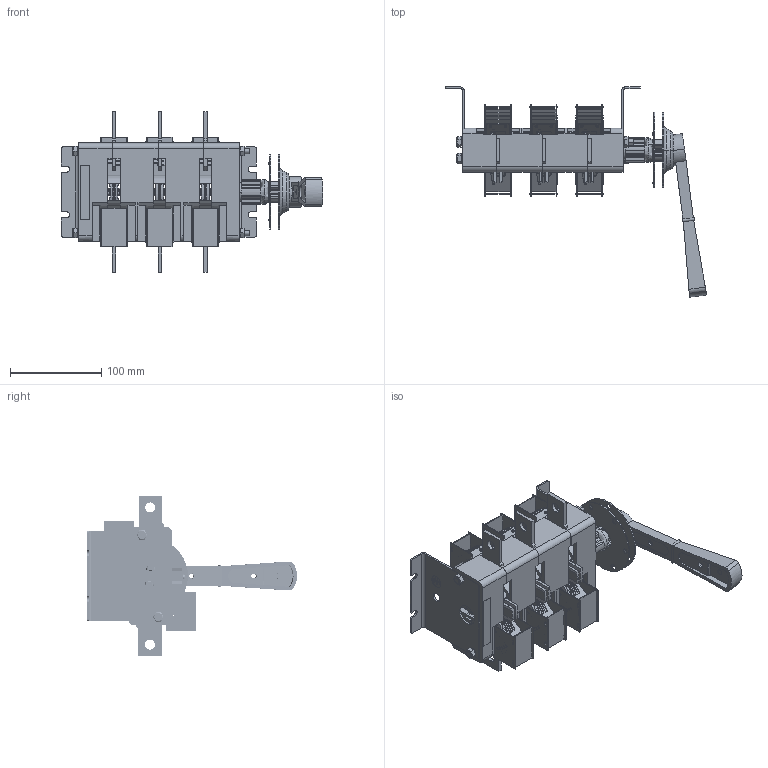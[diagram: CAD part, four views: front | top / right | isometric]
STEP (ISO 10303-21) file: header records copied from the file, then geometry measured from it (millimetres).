
FILE_DESCRIPTION (( 'STEP AP214' ), '1' );
FILE_NAME ('ﾂﾐ32-37ﾔ ﾃﾆﾈﾊ.642523.008-01 (ﾂ31250-400ﾀ ﾋ).STEP', '2023-04-19T10:39:23', ( '' ), ( '' ), 'SwSTEP 2.0', 'SolidWorks 2018', '' );
FILE_SCHEMA (( 'AUTOMOTIVE_DESIGN' ));
Length unit declared in the file: millimetre
Products named in the file (38): Áîêîâèíà ïðàâàÿ ÃÆÈÊ.735224.026; 澡犟囹铕 闷仁.745484.003; ﾘ琺矜 ﾃﾆﾈﾊ.758491.056; ﾂﾐ32-37ﾔ ﾃﾆﾈﾊ.642523.008-01 (ﾂ31250-400ﾀ ﾋ); ﾘ琺矜 D15; 澡犟囹铕_闷仁.745484.006; 殃钺郷闷仁.745326.025; ﾂ琿 ﾃﾆﾈﾊ.715274.003; Êîðïóñ ëåâûé ÃÆÈÊ.735384.047; Òàáëè÷êà äëÿ ñáîðêè ÷èñòàÿ áîëüøàÿ; 锐牮钽囫栩咫黖闷仁.741271.007; 噪囗弼 闷仁.712378.001; 想囫蜩磬_闷仁.745355.008; Ïëàñòèíà óïðàâëåíèÿ; Ãàéêà 2Ì6-6Í.5.016; 务黖闷仁.715411.019; Èñêðîãàñèòåëü_ÃÆÈÊ.741271.007_-01(®â¢¥àáâ¨ï); Êîíòàêò ïîäâèæíûé_ÃÆÈÊ.745355.013; Êîðïóñ ñðåäíèé ÃÆÈÊ.735384.046; ﾏ跖浯_ﾃﾆﾈﾊ.753553.011_-01 (癸ｮ爼); Êîíòàêò ïîäâèæíûé ÃÆÈÊ.685179.145; ﾎﾁﾎﾋﾎﾗﾊﾀ_ﾍ; Êàìåðà äóãîãàñèòåëüíàÿ ÃÆÈÊ.686431.025; ﾏ跖浯 ﾃﾆﾈﾊ.753553.010; Ðóêîÿòêà ÃÆÈÊ.303658.010; 想囫蜩磬_闷仁.745355.007; 抔樖罻; ﾘ琺矜 6 65ﾃ 016; ﾘ琺矜 D32; 羊屙赅_闷仁.741226.003; 暑痫篑 镳噔 闷仁.735384.045; 锐牮钽囫栩咫羅闷仁.686433.003; Øïèëüêà Ì6 ÃÆÈÊ.758292.005; Òàáëè÷êà äëÿ ñáîðêè ÷èñòàÿ; 买箅赅 闷仁.713141.010; ﾂ鏆鮏 ﾃﾆﾈﾊ.745485.005; Áîêîâèíà ëåâàÿ ÃÆÈÊ.735224.027; 想囫蜩磬_-01 (帷獱)
Assembly tree (70 placements, depth 4):
  ﾂﾐ32-37ﾔ ﾃﾆﾈﾊ.642523.008-01 (ﾂ31250-400ﾀ ﾋ)
    Êîðïóñ ëåâûé ÃÆÈÊ.735384.047
    Êîðïóñ ñðåäíèé ÃÆÈÊ.735384.046  x2
    暑痫篑 镳噔 闷仁.735384.045
    Áîêîâèíà ëåâàÿ ÃÆÈÊ.735224.027
    Áîêîâèíà ïðàâàÿ ÃÆÈÊ.735224.026
    Êàìåðà äóãîãàñèòåëüíàÿ ÃÆÈÊ.686431.025  x6
      想囫蜩磬_闷仁.745355.008
      羊屙赅_闷仁.741226.003
      锐牮钽囫栩咫黖闷仁.741271.007
      锐牮钽囫栩咫羅闷仁.686433.003
        殃钺郷闷仁.745326.025
        Èñêðîãàñèòåëü_ÃÆÈÊ.741271.007_-01(®â¢¥àáâ¨ï)
        抔樖罻  x2
    Êîíòàêò ïîäâèæíûé ÃÆÈÊ.685179.145  x3
      Êîíòàêò ïîäâèæíûé_ÃÆÈÊ.745355.013
      想囫蜩磬_闷仁.745355.007
      澡犟囹铕_闷仁.745484.006
      务黖闷仁.715411.019
      ﾏ跖浯_ﾃﾆﾈﾊ.753553.011_-01 (癸ｮ爼)
    Øïèëüêà Ì6 ÃÆÈÊ.758292.005  x2
    Ãàéêà 2Ì6-6Í.5.016  x4
    ﾘ琺矜 6 65ﾃ 016  x4
    ﾏ跖浯 ﾃﾆﾈﾊ.753553.010  x2
    澡犟囹铕 闷仁.745484.003  x2
    ﾂ鏆鮏 ﾃﾆﾈﾊ.745485.005  x6
    Òàáëè÷êà äëÿ ñáîðêè ÷èñòàÿ
    Òàáëè÷êà äëÿ ñáîðêè ÷èñòàÿ áîëüøàÿ
    ﾂ琿 ﾃﾆﾈﾊ.715274.003
    买箅赅 闷仁.713141.010
    ﾘ琺矜 ﾃﾆﾈﾊ.758491.056
    噪囗弼 闷仁.712378.001
    Ðóêîÿòêà ÃÆÈÊ.303658.010
      ﾘ琺矜 D32
      ﾘ琺矜 D15
      Ïëàñòèíà óïðàâëåíèÿ
      想囫蜩磬_-01 (帷獱)
      ﾎﾁﾎﾋﾎﾗﾊﾀ_ﾍ
Bounding box: 286.96 x 230.88 x 176.5 mm (x, y, z)
Volume: 644108.3 mm3; surface area: 471353.7 mm2
Topology: 137 solids, 137 shells, 4684 faces, 12133 edges, 7820 vertices
Faces by surface type: plane 3243, cylinder 1197, bspline 92, cone 68, sphere 54, torus 30
Entity records: 129890 total; most frequent: CARTESIAN_POINT 89807, DIRECTION 8142, ORIENTED_EDGE 7950, EDGE_CURVE 3975, AXIS2_PLACEMENT_3D 2789, VERTEX_POINT 2584, VECTOR 2564, LINE 2564
